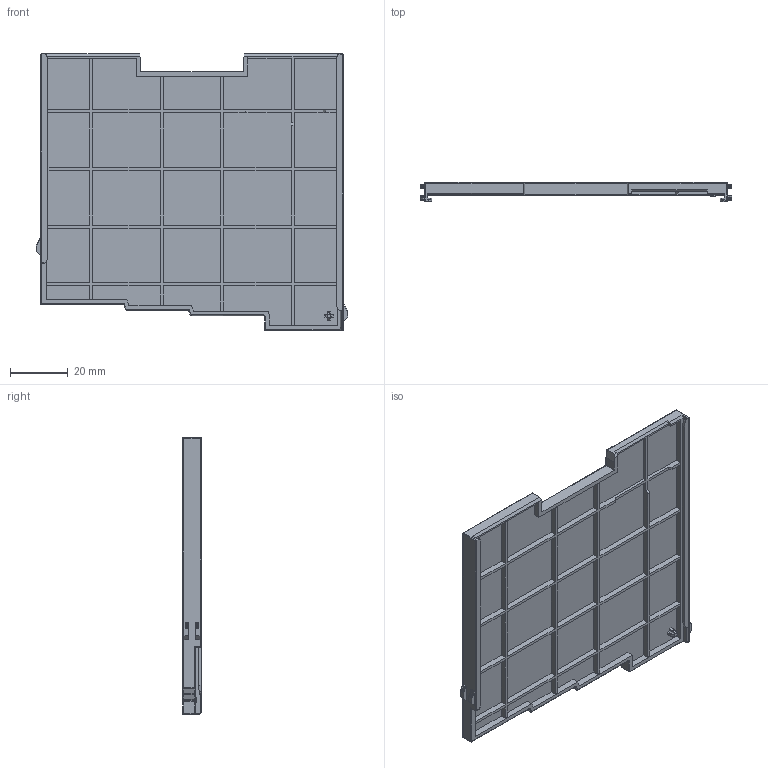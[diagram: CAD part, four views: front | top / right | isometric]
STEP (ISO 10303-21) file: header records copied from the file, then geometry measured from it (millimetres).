
FILE_DESCRIPTION (( 'STEP AP214' ), '1' );
FILE_NAME ('End_Cover.STEP', '2026-05-10T19:41:12', ( '' ), ( '' ), 'SwSTEP 2.0', 'SolidWorks 2020', '' );
FILE_SCHEMA (( 'AUTOMOTIVE_DESIGN' ));
Length unit declared in the file: millimetre
Products named in the file (1): End_Cover
Bounding box: 108 x 6.5 x 96 mm (x, y, z)
Volume: 22246.3 mm3; surface area: 25158.8 mm2
Topology: 1 solids, 1 shells, 335 faces, 896 edges, 567 vertices
Faces by surface type: plane 230, cylinder 78, sphere 11, torus 7, bspline 5, cone 4
Entity records: 10849 total; most frequent: CARTESIAN_POINT 2552, ORIENTED_EDGE 1774, DIRECTION 1617, EDGE_CURVE 887, LINE 715, VECTOR 715, VERTEX_POINT 567, AXIS2_PLACEMENT_3D 451
